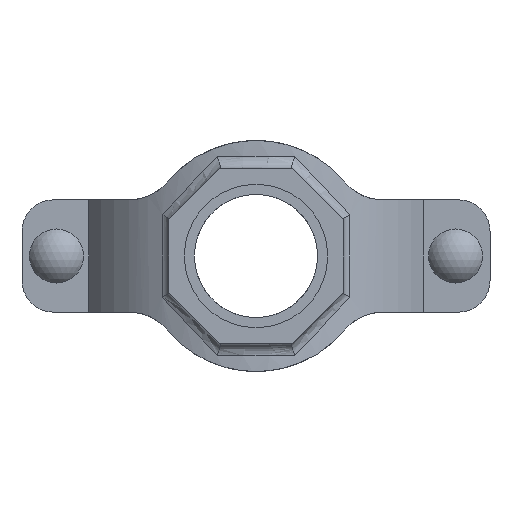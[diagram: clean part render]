
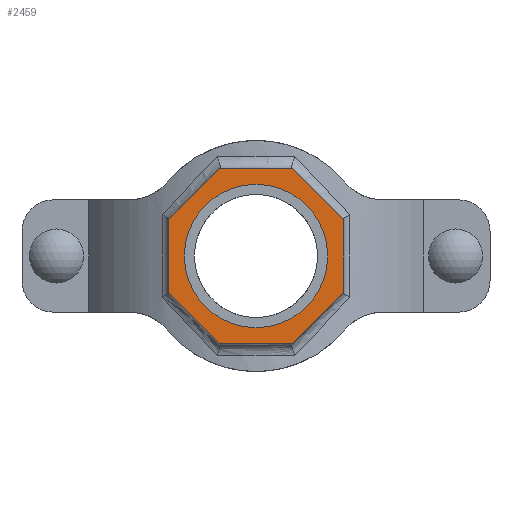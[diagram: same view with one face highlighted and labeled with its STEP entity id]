
A CAD part, front view. The second image highlights one B-rep face of the part: STEP entity #2459.
In plain terms, the highlighted planar face has unit normal (0, -1, 0) as drawn and (0, 1, 0) by its records, which use the part's own axes.
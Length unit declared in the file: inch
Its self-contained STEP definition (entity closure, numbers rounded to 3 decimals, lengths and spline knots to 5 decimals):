
#178=FACE_BOUND('',#443,.T.);
#295=FACE_OUTER_BOUND('',#442,.T.);
#442=EDGE_LOOP('',(#2070,#2071,#2072,#2073,#2074,#2075,#2076,#2077));
#443=EDGE_LOOP('',(#2078));
#576=LINE('',#4506,#758);
#579=LINE('',#4511,#761);
#581=LINE('',#4515,#763);
#583=LINE('',#4519,#765);
#621=LINE('',#4914,#803);
#623=LINE('',#4918,#805);
#625=LINE('',#4922,#807);
#627=LINE('',#4925,#809);
#758=VECTOR('',#3180,0.3937);
#761=VECTOR('',#3185,0.3937);
#763=VECTOR('',#3189,0.3937);
#765=VECTOR('',#3193,0.3937);
#803=VECTOR('',#3319,0.3937);
#805=VECTOR('',#3323,0.3937);
#807=VECTOR('',#3327,0.3937);
#809=VECTOR('',#3331,0.3937);
#891=CIRCLE('',#2714,1.4375);
#1065=VERTEX_POINT('',#4503);
#1066=VERTEX_POINT('',#4505);
#1067=VERTEX_POINT('',#4509);
#1068=VERTEX_POINT('',#4513);
#1069=VERTEX_POINT('',#4517);
#1100=VERTEX_POINT('',#4751);
#1124=VERTEX_POINT('',#4913);
#1125=VERTEX_POINT('',#4917);
#1126=VERTEX_POINT('',#4921);
#1366=EDGE_CURVE('',#1066,#1065,#576,.T.);
#1369=EDGE_CURVE('',#1065,#1067,#579,.T.);
#1371=EDGE_CURVE('',#1067,#1068,#581,.T.);
#1373=EDGE_CURVE('',#1068,#1069,#583,.T.);
#1413=EDGE_CURVE('',#1100,#1100,#891,.T.);
#1447=EDGE_CURVE('',#1124,#1066,#621,.T.);
#1449=EDGE_CURVE('',#1125,#1124,#623,.T.);
#1451=EDGE_CURVE('',#1126,#1125,#625,.T.);
#1453=EDGE_CURVE('',#1069,#1126,#627,.T.);
#2070=ORIENTED_EDGE('',*,*,#1453,.T.);
#2071=ORIENTED_EDGE('',*,*,#1451,.T.);
#2072=ORIENTED_EDGE('',*,*,#1449,.T.);
#2073=ORIENTED_EDGE('',*,*,#1447,.T.);
#2074=ORIENTED_EDGE('',*,*,#1366,.T.);
#2075=ORIENTED_EDGE('',*,*,#1369,.T.);
#2076=ORIENTED_EDGE('',*,*,#1371,.T.);
#2077=ORIENTED_EDGE('',*,*,#1373,.T.);
#2078=ORIENTED_EDGE('',*,*,#1413,.T.);
#2208=PLANE('',#2737);
#2459=ADVANCED_FACE('',(#295,#178),#2208,.T.);
#2714=AXIS2_PLACEMENT_3D('',#4752,#3261,#3262);
#2737=AXIS2_PLACEMENT_3D('',#4926,#3332,#3333);
#3180=DIRECTION('',(0.,0.,1.));
#3185=DIRECTION('',(0.707,0.,0.707));
#3189=DIRECTION('',(1.,0.,0.));
#3193=DIRECTION('',(0.707,0.,-0.707));
#3261=DIRECTION('center_axis',(0.,-1.,0.));
#3262=DIRECTION('ref_axis',(-1.,0.,0.));
#3319=DIRECTION('',(-0.707,0.,0.707));
#3323=DIRECTION('',(-1.,0.,0.));
#3327=DIRECTION('',(-0.707,0.,-0.707));
#3331=DIRECTION('',(0.,0.,-1.));
#3332=DIRECTION('center_axis',(0.,1.,0.));
#3333=DIRECTION('ref_axis',(0.,0.,1.));
#4503=CARTESIAN_POINT('',(-1.75,5.13,0.72487));
#4505=CARTESIAN_POINT('',(-1.75,5.13,-0.72487));
#4506=CARTESIAN_POINT('',(-1.75,5.13,0.72487));
#4509=CARTESIAN_POINT('',(-0.72487,5.13,1.75));
#4511=CARTESIAN_POINT('',(-0.72487,5.13,1.75));
#4513=CARTESIAN_POINT('',(0.72487,5.13,1.75));
#4515=CARTESIAN_POINT('',(0.72487,5.13,1.75));
#4517=CARTESIAN_POINT('',(1.75,5.13,0.72487));
#4519=CARTESIAN_POINT('',(1.75,5.13,0.72487));
#4751=CARTESIAN_POINT('',(1.4375,5.13,0.));
#4752=CARTESIAN_POINT('Origin',(0.,5.13,0.));
#4913=CARTESIAN_POINT('',(-0.72487,5.13,-1.75));
#4914=CARTESIAN_POINT('',(-1.75,5.13,-0.72487));
#4917=CARTESIAN_POINT('',(0.72487,5.13,-1.75));
#4918=CARTESIAN_POINT('',(-0.72487,5.13,-1.75));
#4921=CARTESIAN_POINT('',(1.75,5.13,-0.72487));
#4922=CARTESIAN_POINT('',(0.72487,5.13,-1.75));
#4925=CARTESIAN_POINT('',(1.75,5.13,-0.72487));
#4926=CARTESIAN_POINT('Origin',(0.,5.13,0.));
